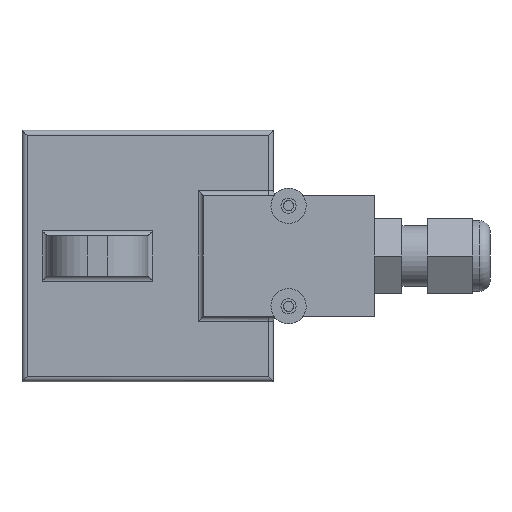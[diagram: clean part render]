
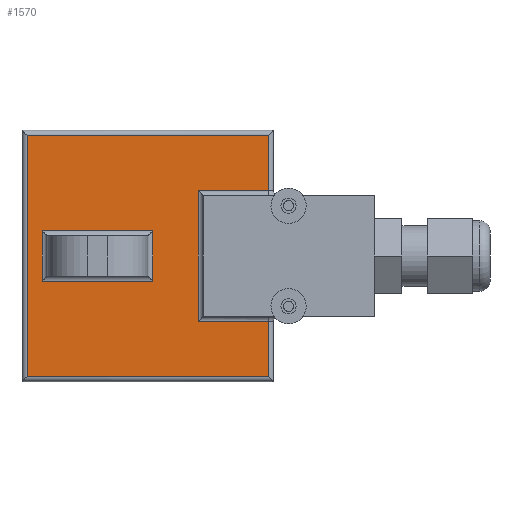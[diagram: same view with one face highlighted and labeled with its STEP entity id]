
A CAD part, left-side view. The second image highlights one B-rep face of the part: STEP entity #1570.
In plain terms, the highlighted planar face has unit normal (-1, 0, 0).
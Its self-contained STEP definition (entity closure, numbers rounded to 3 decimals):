
#96=FACE_BOUND('',#532,.F.);
#186=PLANE('',#3605);
#342=FACE_OUTER_BOUND('',#533,.F.);
#532=EDGE_LOOP('',(#1163,#1164,#1165,#1166));
#533=EDGE_LOOP('',(#1167,#1168,#1169,#1170,#1171,#1172,#1173,#1174));
#1163=ORIENTED_EDGE('',*,*,#2883,.F.);
#1164=ORIENTED_EDGE('',*,*,#2880,.F.);
#1165=ORIENTED_EDGE('',*,*,#2881,.F.);
#1166=ORIENTED_EDGE('',*,*,#2882,.F.);
#1167=ORIENTED_EDGE('',*,*,#2910,.F.);
#1168=ORIENTED_EDGE('',*,*,#2908,.T.);
#1169=ORIENTED_EDGE('',*,*,#2906,.T.);
#1170=ORIENTED_EDGE('',*,*,#2904,.F.);
#1171=ORIENTED_EDGE('',*,*,#2902,.F.);
#1172=ORIENTED_EDGE('',*,*,#2897,.T.);
#1173=ORIENTED_EDGE('',*,*,#2896,.T.);
#1174=ORIENTED_EDGE('',*,*,#2895,.T.);
#1570=ADVANCED_FACE('',(#96,#342),#186,.T.);
#2218=LINE('',#5215,#2507);
#2219=LINE('',#5216,#2508);
#2220=LINE('',#5217,#2509);
#2221=LINE('',#5218,#2510);
#2225=LINE('',#5248,#2514);
#2226=LINE('',#5249,#2515);
#2227=LINE('',#5250,#2516);
#2232=LINE('',#5255,#2521);
#2234=LINE('',#5257,#2523);
#2236=LINE('',#5259,#2525);
#2238=LINE('',#5261,#2527);
#2240=LINE('',#5263,#2529);
#2507=VECTOR('',#4121,22.);
#2508=VECTOR('',#4122,10.);
#2509=VECTOR('',#4123,22.);
#2510=VECTOR('',#4124,10.);
#2514=VECTOR('',#4140,14.);
#2515=VECTOR('',#4141,26.);
#2516=VECTOR('',#4142,14.);
#2521=VECTOR('',#4147,11.);
#2523=VECTOR('',#4149,48.);
#2525=VECTOR('',#4151,48.);
#2527=VECTOR('',#4153,48.);
#2529=VECTOR('',#4155,11.);
#2880=EDGE_CURVE('',#3121,#3120,#2218,.T.);
#2881=EDGE_CURVE('',#3119,#3121,#2219,.T.);
#2882=EDGE_CURVE('',#3118,#3119,#2220,.T.);
#2883=EDGE_CURVE('',#3120,#3118,#2221,.T.);
#2895=EDGE_CURVE('',#3131,#3146,#2225,.T.);
#2896=EDGE_CURVE('',#3132,#3131,#2226,.T.);
#2897=EDGE_CURVE('',#3145,#3132,#2227,.T.);
#2902=EDGE_CURVE('',#3145,#3137,#2232,.T.);
#2904=EDGE_CURVE('',#3137,#3138,#2234,.T.);
#2906=EDGE_CURVE('',#3140,#3138,#2236,.T.);
#2908=EDGE_CURVE('',#3143,#3140,#2238,.T.);
#2910=EDGE_CURVE('',#3143,#3146,#2240,.T.);
#3118=VERTEX_POINT('',#4855);
#3119=VERTEX_POINT('',#4856);
#3120=VERTEX_POINT('',#4857);
#3121=VERTEX_POINT('',#4858);
#3131=VERTEX_POINT('',#4868);
#3132=VERTEX_POINT('',#4869);
#3137=VERTEX_POINT('',#4874);
#3138=VERTEX_POINT('',#4875);
#3140=VERTEX_POINT('',#4877);
#3143=VERTEX_POINT('',#4880);
#3145=VERTEX_POINT('',#4882);
#3146=VERTEX_POINT('',#4883);
#3605=AXIS2_PLACEMENT_3D('',#5423,#4345,#4346);
#4121=DIRECTION('',(0.,-1.,0.));
#4122=DIRECTION('',(0.,0.,1.));
#4123=DIRECTION('',(0.,1.,0.));
#4124=DIRECTION('',(0.,0.,-1.));
#4140=DIRECTION('',(0.,-1.,0.));
#4141=DIRECTION('',(0.,0.,-1.));
#4142=DIRECTION('',(0.,1.,0.));
#4147=DIRECTION('',(0.,0.,1.));
#4149=DIRECTION('',(0.,1.,0.));
#4151=DIRECTION('',(0.,0.,1.));
#4153=DIRECTION('',(0.,1.,0.));
#4155=DIRECTION('',(0.,0.,1.));
#4345=DIRECTION('',(-1.,0.,0.));
#4346=DIRECTION('',(0.,1.,0.));
#4855=CARTESIAN_POINT('',(-9.,0.5,53.));
#4856=CARTESIAN_POINT('',(-9.,22.5,53.));
#4857=CARTESIAN_POINT('',(-9.,0.5,63.));
#4858=CARTESIAN_POINT('',(-9.,22.5,63.));
#4868=CARTESIAN_POINT('',(-9.,-8.5,45.));
#4869=CARTESIAN_POINT('',(-9.,-8.5,71.));
#4874=CARTESIAN_POINT('',(-9.,-22.5,82.));
#4875=CARTESIAN_POINT('',(-9.,25.5,82.));
#4877=CARTESIAN_POINT('',(-9.,25.5,34.));
#4880=CARTESIAN_POINT('',(-9.,-22.5,34.));
#4882=CARTESIAN_POINT('',(-9.,-22.5,71.));
#4883=CARTESIAN_POINT('',(-9.,-22.5,45.));
#5215=CARTESIAN_POINT('',(-9.,22.5,63.));
#5216=CARTESIAN_POINT('',(-9.,22.5,53.));
#5217=CARTESIAN_POINT('',(-9.,0.5,53.));
#5218=CARTESIAN_POINT('',(-9.,0.5,63.));
#5248=CARTESIAN_POINT('',(-9.,-8.5,45.));
#5249=CARTESIAN_POINT('',(-9.,-8.5,71.));
#5250=CARTESIAN_POINT('',(-9.,-22.5,71.));
#5255=CARTESIAN_POINT('',(-9.,-22.5,71.));
#5257=CARTESIAN_POINT('',(-9.,-22.5,82.));
#5259=CARTESIAN_POINT('',(-9.,25.5,34.));
#5261=CARTESIAN_POINT('',(-9.,-22.5,34.));
#5263=CARTESIAN_POINT('',(-9.,-22.5,34.));
#5423=CARTESIAN_POINT('',(-9.,-23.5,83.));
